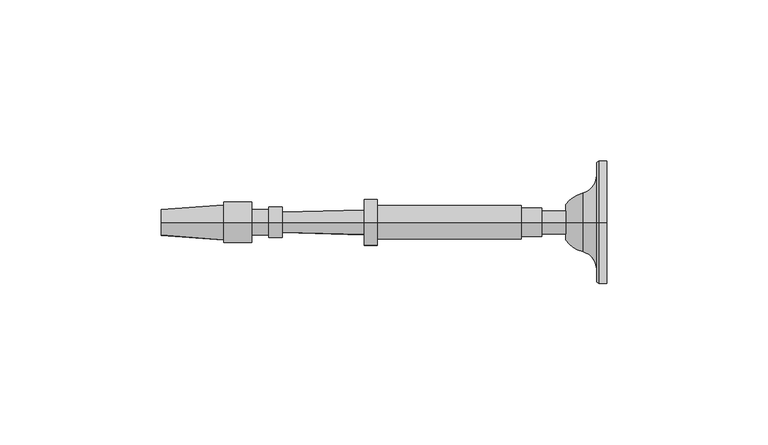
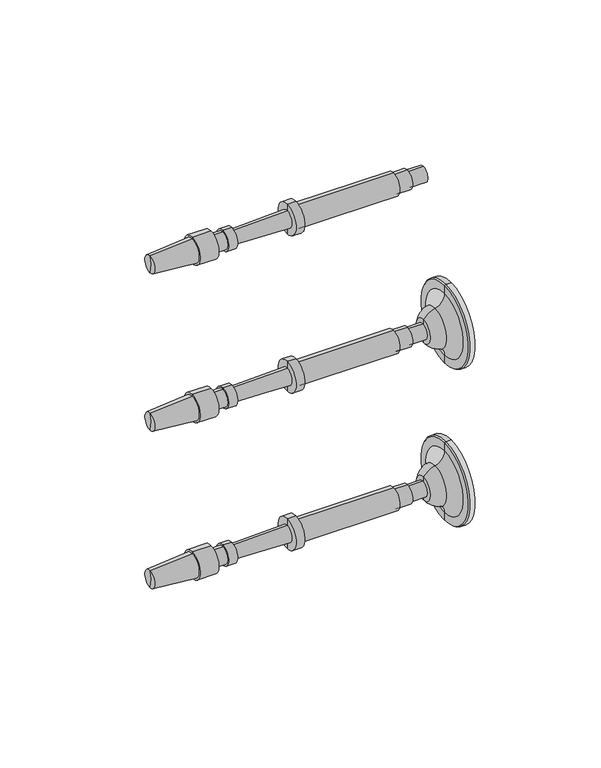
"""IFC4 building model written with IfcOpenShell, lengths in millimetres: railing geometry, RAILEASY CABLE RAILING CORNER TENSIONERS STAIR."""

from ifc_helpers import new_model, si_unit, point, frame, origin, place, context, project, spatial, polyline, circle_curve, ellipse_curve, trimmed, source, transform, mapped, element, save
from ifc_brep_helpers import plane_surface, cylinder_surface, revolved_surface, advanced_brep


def railing_0dcd67a9(model_context):
    return source(origin(), model_context, "Body", "AdvancedBrep", [
        advanced_brep(
        [(4032.408954, 20313.0866843, 33140.0282881), (4032.408954, 20313.0866843, 33147.1720381), (4032.408954, 20313.0866843, 33143.6001631), (3907.4650648, 20313.0866843, 33143.6001631), (3907.1694004, 20313.0866843, 33147.6246235), (3907.1694004, 20313.0866843, 33139.5757028), (3926.5127644, 20313.0866843, 33149.045719), (3926.5127644, 20313.0866843, 33138.1546072), (3926.5127644, 20313.0866843, 33149.9386877), (3926.5127644, 20313.0866843, 33137.2616385), (3935.1447956, 20313.0866843, 33149.9386877), (3935.1447956, 20313.0866843, 33137.2616385), (3935.1447956, 20313.0866843, 33147.5574377), (3935.1447956, 20313.0866843, 33139.6428885), (3940.5026081, 20313.0866843, 33147.5574377), (3940.5026081, 20313.0866843, 33139.6428885), (3940.5026081, 20313.0866843, 33148.3511877), (3940.5026081, 20313.0866843, 33138.8491385), (3944.5705769, 20313.0866843, 33148.3511877), (3944.5705769, 20313.0866843, 33138.8491385), (3944.614664, 20313.0866843, 33146.7643), (3944.614664, 20313.0866843, 33140.4360262), (3970.0048672, 20313.0866843, 33147.4696944), (3970.0048672, 20313.0866843, 33139.7306319), (3970.0048672, 20313.0866843, 33150.7439131), (3970.0048672, 20313.0866843, 33136.4564131), (3973.9736172, 20313.0866843, 33150.7439131), (3973.9736172, 20313.0866843, 33136.4564131), (3973.9736172, 20313.0866843, 33148.7595381), (3973.9736172, 20313.0866843, 33138.4407881), (4018.7212735, 20313.0866843, 33148.7595381), (4018.7212735, 20313.0866843, 33138.4407881), (4018.7212735, 20313.0866843, 33147.9657881), (4018.7212735, 20313.0866843, 33139.2345381), (4025.0712735, 20313.0866843, 33147.9657881), (4025.0712735, 20313.0866843, 33139.2345381), (4025.0712735, 20313.0866843, 33147.1720381), (4025.0712735, 20313.0866843, 33140.0282881)],
        [
            (0, 1, circle_curve(frame((4032.408954, 20313.0866843, 33143.6001631), z_axis=(1.0, 0.0, 0.0), x_axis=(0.0, 0.0, 1.0000000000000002)), 3.571875)),
            (1, 2),
            (2, 0),
            (1, 0, circle_curve(frame((4032.408954, 20313.0866843, 33143.6001631), z_axis=(1.0, 0.0, 0.0), x_axis=(0.0, 0.0, 1.0000000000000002)), 3.571875)),
            (3, 4),
            (4, 5, circle_curve(frame((3907.1694004, 20313.0866843, 33143.6001631), z_axis=(-1.0, 0.0, 0.0), x_axis=(0.0, 0.0, 1.0000000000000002)), 4.0244604)),
            (5, 3),
            (5, 4, circle_curve(frame((3907.1694004, 20313.0866843, 33143.6001631), z_axis=(-1.0, 0.0, 0.0), x_axis=(0.0, 0.0, 1.0000000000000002)), 4.0244604)),
            (4, 6),
            (6, 7, circle_curve(frame((3926.5127644, 20313.0866843, 33143.6001631), z_axis=(-1.0, 0.0, 0.0), x_axis=(0.0, 0.0, 1.0000000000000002)), 5.4455559)),
            (7, 5),
            (7, 6, circle_curve(frame((3926.5127644, 20313.0866843, 33143.6001631), z_axis=(-1.0, 0.0, 0.0), x_axis=(0.0, 0.0, 1.0000000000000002)), 5.4455559)),
            (6, 8),
            (8, 9, circle_curve(frame((3926.5127644, 20313.0866843, 33143.6001631), z_axis=(-1.0, 0.0, 0.0), x_axis=(0.0, 0.0, 1.0000000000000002)), 6.3385246)),
            (9, 7),
            (9, 8, circle_curve(frame((3926.5127644, 20313.0866843, 33143.6001631), z_axis=(-1.0, 0.0, 0.0), x_axis=(0.0, 0.0, 1.0000000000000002)), 6.3385246)),
            (8, 10),
            (10, 11, circle_curve(frame((3935.1447956, 20313.0866843, 33143.6001631), z_axis=(-1.0, 0.0, 0.0), x_axis=(0.0, 0.0, 1.0000000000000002)), 6.3385246)),
            (11, 9),
            (11, 10, circle_curve(frame((3935.1447956, 20313.0866843, 33143.6001631), z_axis=(-1.0, 0.0, 0.0), x_axis=(0.0, 0.0, 1.0000000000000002)), 6.3385246)),
            (10, 12),
            (12, 13, circle_curve(frame((3935.1447956, 20313.0866843, 33143.6001631), z_axis=(-1.0, 0.0, 0.0), x_axis=(0.0, 0.0, 1.0000000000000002)), 3.9572746)),
            (13, 11),
            (13, 12, circle_curve(frame((3935.1447956, 20313.0866843, 33143.6001631), z_axis=(-1.0, 0.0, 0.0), x_axis=(0.0, 0.0, 1.0000000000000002)), 3.9572746)),
            (12, 14),
            (14, 15, circle_curve(frame((3940.5026081, 20313.0866843, 33143.6001631), z_axis=(-1.0, 0.0, 0.0), x_axis=(0.0, 0.0, 1.0000000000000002)), 3.9572746)),
            (15, 13),
            (15, 14, circle_curve(frame((3940.5026081, 20313.0866843, 33143.6001631), z_axis=(-1.0, 0.0, 0.0), x_axis=(0.0, 0.0, 1.0000000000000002)), 3.9572746)),
            (14, 16),
            (16, 17, circle_curve(frame((3940.5026081, 20313.0866843, 33143.6001631), z_axis=(-1.0, 0.0, 0.0), x_axis=(0.0, 0.0, 1.0000000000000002)), 4.7510246)),
            (17, 15),
            (17, 16, circle_curve(frame((3940.5026081, 20313.0866843, 33143.6001631), z_axis=(-1.0, 0.0, 0.0), x_axis=(0.0, 0.0, 1.0000000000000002)), 4.7510246)),
            (16, 18),
            (18, 19, circle_curve(frame((3944.5705769, 20313.0866843, 33143.6001631), z_axis=(-1.0, 0.0, 0.0), x_axis=(0.0, 0.0, 1.0000000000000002)), 4.7510246)),
            (19, 17),
            (19, 18, circle_curve(frame((3944.5705769, 20313.0866843, 33143.6001631), z_axis=(-1.0, 0.0, 0.0), x_axis=(0.0, 0.0, 1.0000000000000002)), 4.7510246)),
            (18, 20),
            (20, 21, circle_curve(frame((3944.614664, 20313.0866843, 33143.6001631), z_axis=(-1.0, 0.0, 0.0), x_axis=(0.0, 0.0, 1.0000000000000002)), 3.1641369)),
            (21, 19),
            (21, 20, circle_curve(frame((3944.614664, 20313.0866843, 33143.6001631), z_axis=(-1.0, 0.0, 0.0), x_axis=(0.0, 0.0, 1.0000000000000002)), 3.1641369)),
            (20, 22),
            (22, 23, circle_curve(frame((3970.0048672, 20313.0866843, 33143.6001631), z_axis=(-1.0, 0.0, 0.0), x_axis=(0.0, 0.0, 1.0000000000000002)), 3.8695313)),
            (23, 21),
            (23, 22, circle_curve(frame((3970.0048672, 20313.0866843, 33143.6001631), z_axis=(-1.0, 0.0, 0.0), x_axis=(0.0, 0.0, 1.0000000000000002)), 3.8695313)),
            (22, 24),
            (24, 25, circle_curve(frame((3970.0048672, 20313.0866843, 33143.6001631), z_axis=(-1.0, 0.0, 0.0), x_axis=(0.0, 0.0, 1.0000000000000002)), 7.14375)),
            (25, 23),
            (25, 24, circle_curve(frame((3970.0048672, 20313.0866843, 33143.6001631), z_axis=(-1.0, 0.0, 0.0), x_axis=(0.0, 0.0, 1.0000000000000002)), 7.14375)),
            (24, 26),
            (26, 27, circle_curve(frame((3973.9736172, 20313.0866843, 33143.6001631), z_axis=(-1.0, 0.0, 0.0), x_axis=(0.0, 0.0, 1.0000000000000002)), 7.14375)),
            (27, 25),
            (27, 26, circle_curve(frame((3973.9736172, 20313.0866843, 33143.6001631), z_axis=(-1.0, 0.0, 0.0), x_axis=(0.0, 0.0, 1.0000000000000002)), 7.14375)),
            (26, 28),
            (28, 29, circle_curve(frame((3973.9736172, 20313.0866843, 33143.6001631), z_axis=(-1.0, 0.0, 0.0), x_axis=(0.0, 0.0, 1.0000000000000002)), 5.159375)),
            (29, 27),
            (29, 28, circle_curve(frame((3973.9736172, 20313.0866843, 33143.6001631), z_axis=(-1.0, 0.0, 0.0), x_axis=(0.0, 0.0, 1.0000000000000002)), 5.159375)),
            (28, 30),
            (30, 31, circle_curve(frame((4018.7212735, 20313.0866843, 33143.6001631), z_axis=(-1.0, 0.0, 0.0), x_axis=(0.0, 0.0, 1.0000000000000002)), 5.159375)),
            (31, 29),
            (31, 30, circle_curve(frame((4018.7212735, 20313.0866843, 33143.6001631), z_axis=(-1.0, 0.0, 0.0), x_axis=(0.0, 0.0, 1.0000000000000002)), 5.159375)),
            (30, 32),
            (32, 33, circle_curve(frame((4018.7212735, 20313.0866843, 33143.6001631), z_axis=(-1.0, 0.0, 0.0), x_axis=(0.0, 0.0, 1.0000000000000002)), 4.365625)),
            (33, 31),
            (33, 32, circle_curve(frame((4018.7212735, 20313.0866843, 33143.6001631), z_axis=(-1.0, 0.0, 0.0), x_axis=(0.0, 0.0, 1.0000000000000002)), 4.365625)),
            (32, 34),
            (34, 35, circle_curve(frame((4025.0712735, 20313.0866843, 33143.6001631), z_axis=(-1.0, 0.0, 0.0), x_axis=(0.0, 0.0, 1.0000000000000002)), 4.365625)),
            (35, 33),
            (35, 34, circle_curve(frame((4025.0712735, 20313.0866843, 33143.6001631), z_axis=(-1.0, 0.0, 0.0), x_axis=(0.0, 0.0, 1.0000000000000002)), 4.365625)),
            (34, 36),
            (36, 37, circle_curve(frame((4025.0712735, 20313.0866843, 33143.6001631), z_axis=(-1.0, 0.0, 0.0), x_axis=(0.0, 0.0, 1.0000000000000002)), 3.571875)),
            (37, 35),
            (37, 36, circle_curve(frame((4025.0712735, 20313.0866843, 33143.6001631), z_axis=(-1.0, 0.0, 0.0), x_axis=(0.0, 0.0, 1.0000000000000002)), 3.571875)),
            (36, 1),
            (0, 37),
        ],
        [
            plane_surface(frame((4032.408954, 20313.0866843, 33143.6001631), z_axis=(1.0, 0.0, 0.0), x_axis=(0.0, 0.0, 1.0))),
            revolved_surface(polyline([(3907.1694004, 20313.0866843, 33147.6246235), (3907.4650648, 20313.0866843, 33143.6001631)]), (3907.4650648, 20313.0866843, 33143.6001631), (-1.0, 0.0, 0.0)),
            revolved_surface(polyline([(3926.5127644, 20313.0866843, 33149.045719), (3907.1694004, 20313.0866843, 33147.6246235)]), (3907.4650648, 20313.0866843, 33143.6001631), (-1.0, 0.0, 0.0)),
            plane_surface(frame((3926.5127644, 20313.0866843, 33143.6001631), z_axis=(-1.0, 0.0, 0.0), x_axis=(0.0, 0.0, 1.0))),
            cylinder_surface(frame((3907.4650648, 20313.0866843, 33143.6001631), z_axis=(-1.0, 0.0, 0.0), x_axis=(0.0, 0.0, 1.0000000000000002)), 6.3385246),
            plane_surface(frame((3935.1447956, 20313.0866843, 33143.6001631), z_axis=(1.0, 0.0, 0.0), x_axis=(0.0, 0.0, 1.0))),
            cylinder_surface(frame((3907.4650648, 20313.0866843, 33143.6001631), z_axis=(-1.0, 0.0, 0.0), x_axis=(0.0, 0.0, 1.0000000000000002)), 3.9572746),
            plane_surface(frame((3940.5026081, 20313.0866843, 33143.6001631), z_axis=(-1.0, 0.0, 0.0), x_axis=(0.0, 0.0, 1.0))),
            cylinder_surface(frame((3907.4650648, 20313.0866843, 33143.6001631), z_axis=(-1.0, 0.0, 0.0), x_axis=(0.0, 0.0, 1.0000000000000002)), 4.7510246),
            plane_surface(frame((3944.614664, 20313.0866843, 33143.6001631), z_axis=(1.0, 0.0, 0.0), x_axis=(0.0, 0.0, 1.0))),
            revolved_surface(polyline([(3970.0048672, 20313.0866843, 33147.4696944), (3944.614664, 20313.0866843, 33146.7643)]), (3907.4650648, 20313.0866843, 33143.6001631), (-1.0, 0.0, 0.0)),
            plane_surface(frame((3970.0048672, 20313.0866843, 33143.6001631), z_axis=(-1.0, 0.0, 0.0), x_axis=(0.0, 0.0, 1.0))),
            cylinder_surface(frame((3907.4650648, 20313.0866843, 33143.6001631), z_axis=(-1.0, 0.0, 0.0), x_axis=(0.0, 0.0, 1.0000000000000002)), 7.14375),
            plane_surface(frame((3973.9736172, 20313.0866843, 33143.6001631), z_axis=(1.0, 0.0, 0.0), x_axis=(0.0, 0.0, 1.0))),
            cylinder_surface(frame((3907.4650648, 20313.0866843, 33143.6001631), z_axis=(-1.0, 0.0, 0.0), x_axis=(0.0, 0.0, 1.0000000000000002)), 5.159375),
            plane_surface(frame((4018.7212735, 20313.0866843, 33143.6001631), z_axis=(1.0, 0.0, 0.0), x_axis=(0.0, 0.0, 1.0))),
            cylinder_surface(frame((3907.4650648, 20313.0866843, 33143.6001631), z_axis=(-1.0, 0.0, 0.0), x_axis=(0.0, 0.0, 1.0000000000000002)), 4.365625),
            plane_surface(frame((4025.0712735, 20313.0866843, 33143.6001631), z_axis=(1.0, 0.0, 0.0), x_axis=(0.0, 0.0, 1.0))),
            cylinder_surface(frame((3907.4650648, 20313.0866843, 33143.6001631), z_axis=(-1.0, 0.0, 0.0), x_axis=(0.0, 0.0, 1.0000000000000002)), 3.571875),
        ],
        [
            (0, [[1, 2, 3]]),
            (0, [[4, -3, -2]]),
            (1, [[5, 6, 7]]),
            (1, [[-7, 8, -5]]),
            (2, [[-6, 9, 10, 11]]),
            (2, [[-8, -11, 12, -9]]),
            (3, [[-10, 13, 14, 15]]),
            (3, [[-12, -15, 16, -13]]),
            (4, [[-14, 17, 18, 19]]),
            (4, [[-16, -19, 20, -17]]),
            (5, [[-18, 21, 22, 23]]),
            (5, [[-20, -23, 24, -21]]),
            (6, [[-22, 25, 26, 27]]),
            (6, [[-24, -27, 28, -25]]),
            (7, [[-26, 29, 30, 31]]),
            (7, [[-28, -31, 32, -29]]),
            (8, [[-30, 33, 34, 35]]),
            (8, [[-32, -35, 36, -33]]),
            (9, [[-34, 37, 38, 39]]),
            (9, [[-36, -39, 40, -37]]),
            (10, [[-38, 41, 42, 43]]),
            (10, [[-40, -43, 44, -41]]),
            (11, [[-42, 45, 46, 47]]),
            (11, [[-44, -47, 48, -45]]),
            (12, [[-46, 49, 50, 51]]),
            (12, [[-48, -51, 52, -49]]),
            (13, [[-50, 53, 54, 55]]),
            (13, [[-52, -55, 56, -53]]),
            (14, [[-54, 57, 58, 59]]),
            (14, [[-56, -59, 60, -57]]),
            (15, [[-58, 61, 62, 63]]),
            (15, [[-60, -63, 64, -61]]),
            (16, [[-62, 65, 66, 67]]),
            (16, [[-64, -67, 68, -65]]),
            (17, [[-66, 69, 70, 71]]),
            (17, [[-68, -71, 72, -69]]),
            (18, [[-70, 73, -1, 74]]),
            (18, [[-72, -74, -4, -73]]),
        ],
    ),
        advanced_brep(
        [(4045.1015906, 20313.0866843, 33067.4001631), (4045.1015906, 20313.0866843, 33048.3501631), (4045.1015906, 20313.0866843, 33086.4501631), (4032.408954, 20313.0866843, 33061.8769785), (4032.408954, 20313.0866843, 33067.4001631), (4032.408954, 20313.0866843, 33072.9233478), (4037.6850504, 20313.0866843, 33058.2720381), (4037.6850504, 20313.0866843, 33076.5282881), (4042.0506754, 20313.0866843, 33052.6458254), (4042.0506754, 20313.0866843, 33082.1545009), (4042.0506754, 20313.0866843, 33048.7762941), (4042.0506754, 20313.0866843, 33086.0240321), (4042.7203406, 20313.0866843, 33048.3501631), (4042.7203406, 20313.0866843, 33086.4501631)],
        [
            (0, 1),
            (1, 2, circle_curve(frame((4045.1015906, 20313.0866843, 33067.4001631), z_axis=(1.0, 0.0, 0.0), x_axis=(0.0, 0.0, 1.0)), 19.05)),
            (2, 0),
            (2, 1, circle_curve(frame((4045.1015906, 20313.0866843, 33067.4001631), z_axis=(1.0, 0.0, 0.0), x_axis=(0.0, 0.0, 1.0)), 19.05)),
            (3, 4),
            (4, 5),
            (5, 3, circle_curve(frame((4032.408954, 20313.0866843, 33067.4001631), z_axis=(-1.0, 0.0, 0.0), x_axis=(0.0, 0.0, 1.0)), 5.5231846)),
            (3, 5, circle_curve(frame((4032.408954, 20313.0866843, 33067.4001631), z_axis=(-1.0, 0.0, 0.0), x_axis=(0.0, 0.0, 1.0)), 5.5231846)),
            (6, 3, circle_curve(frame((4040.0094591, 20313.0866843, 33067.3374304), z_axis=(0.0, 1.0, 0.0), x_axis=(-1.0, 0.0, 0.0)), 9.3586438)),
            (5, 7, circle_curve(frame((4040.0094591, 20313.0866843, 33067.4628958), z_axis=(0.0, 1.0, 0.0), x_axis=(-1.0, 0.0, 0.0)), 9.3586438)),
            (7, 6, circle_curve(frame((4037.6850504, 20313.0866843, 33067.4001631), z_axis=(-1.0, 0.0, 0.0), x_axis=(0.0, 0.0, 1.0)), 9.128125)),
            (6, 7, circle_curve(frame((4037.6850504, 20313.0866843, 33067.4001631), z_axis=(-1.0, 0.0, 0.0), x_axis=(0.0, 0.0, 1.0)), 9.128125)),
            (8, 6, circle_curve(frame((4036.2424634, 20313.0866843, 33052.6458254), z_axis=(0.0, -1.0, 0.0), x_axis=(-1.0, 0.0, 0.0)), 5.8082121)),
            (7, 9, circle_curve(frame((4036.2424634, 20313.0866843, 33082.1545009), z_axis=(0.0, -1.0, 0.0), x_axis=(-1.0, 0.0, 0.0)), 5.8082121)),
            (9, 8, circle_curve(frame((4042.0506754, 20313.0866843, 33067.4001631), z_axis=(-1.0, 0.0, 0.0), x_axis=(0.0, 0.0, 1.0)), 14.7543378)),
            (8, 9, circle_curve(frame((4042.0506754, 20313.0866843, 33067.4001631), z_axis=(-1.0, 0.0, 0.0), x_axis=(0.0, 0.0, 1.0)), 14.7543378)),
            (10, 8),
            (9, 11),
            (11, 10, circle_curve(frame((4042.0506754, 20313.0866843, 33067.4001631), z_axis=(-1.0, 0.0, 0.0), x_axis=(0.0, 0.0, 1.0)), 18.623869)),
            (10, 11, circle_curve(frame((4042.0506754, 20313.0866843, 33067.4001631), z_axis=(-1.0, 0.0, 0.0), x_axis=(0.0, 0.0, 1.0)), 18.623869)),
            (12, 10),
            (11, 13),
            (13, 12, circle_curve(frame((4042.7203406, 20313.0866843, 33067.4001631), z_axis=(-1.0, 0.0, 0.0), x_axis=(0.0, 0.0, 1.0)), 19.05)),
            (12, 13, circle_curve(frame((4042.7203406, 20313.0866843, 33067.4001631), z_axis=(-1.0, 0.0, 0.0), x_axis=(0.0, 0.0, 1.0)), 19.05)),
            (1, 12),
            (13, 2),
        ],
        [
            plane_surface(frame((4045.1015906, 20313.0866843, 33067.4001631), z_axis=(1.0, 0.0, 0.0), x_axis=(0.0, 0.0, 1.0))),
            plane_surface(frame((4032.408954, 20313.0866843, 33067.4001631), z_axis=(-1.0, 0.0, 0.0), x_axis=(0.0, 0.0, 1.0))),
            revolved_surface(trimmed(ellipse_curve(frame((4040.0094591, 20313.0866843, 33067.4628958), z_axis=(0.0, 1.0, 0.0), x_axis=(-1.0, 0.0, 0.0)), 9.3586438, 9.3586438), [point((4032.408954, 20313.0866843, 33072.9233478))], [point((4037.6850504, 20313.0866843, 33076.5282881))], True, "CARTESIAN"), (4045.1015906, 20313.0866843, 33067.4001631), (1.0, 0.0, 0.0)),
            revolved_surface(trimmed(ellipse_curve(frame((4036.2424634, 20313.0866843, 33082.1545009), z_axis=(0.0, -1.0, 0.0), x_axis=(-1.0, 0.0, 0.0)), 5.8082121, 5.8082121), [point((4037.6850504, 20313.0866843, 33076.5282881))], [point((4042.0506754, 20313.0866843, 33082.1545009))], True, "CARTESIAN"), (4045.1015906, 20313.0866843, 33067.4001631), (1.0, 0.0, 0.0)),
            plane_surface(frame((4042.0506754, 20313.0866843, 33067.4001631), z_axis=(-1.0, 0.0, 0.0), x_axis=(0.0, 0.0, 1.0))),
            revolved_surface(polyline([(4042.0506754, 20313.0866843, 33086.0240321), (4042.7203406, 20313.0866843, 33086.4501631)]), (4045.1015906, 20313.0866843, 33067.4001631), (1.0, 0.0, 0.0)),
            cylinder_surface(frame((4045.1015906, 20313.0866843, 33067.4001631), z_axis=(1.0, 0.0, 0.0), x_axis=(0.0, 0.0, 1.0)), 19.05),
        ],
        [
            (0, [[1, 2, 3]]),
            (0, [[-3, 4, -1]]),
            (1, [[5, 6, 7]]),
            (1, [[-6, -5, 8]]),
            (2, [[9, -7, 10, 11]]),
            (2, [[-10, -8, -9, 12]]),
            (3, [[13, -11, 14, 15]]),
            (3, [[-14, -12, -13, 16]]),
            (4, [[17, -15, 18, 19]]),
            (4, [[-18, -16, -17, 20]]),
            (5, [[21, -19, 22, 23]]),
            (5, [[-22, -20, -21, 24]]),
            (6, [[25, -23, 26, -2]]),
            (6, [[-26, -24, -25, -4]]),
        ],
    ),
        advanced_brep(
        [(4032.408954, 20313.0866843, 33063.8282881), (4032.408954, 20313.0866843, 33070.9720381), (4032.408954, 20313.0866843, 33067.4001631), (3907.4650648, 20313.0866843, 33067.4001631), (3907.1694004, 20313.0866843, 33071.4246235), (3907.1694004, 20313.0866843, 33063.3757028), (3926.5127644, 20313.0866843, 33072.845719), (3926.5127644, 20313.0866843, 33061.9546072), (3926.5127644, 20313.0866843, 33073.7386877), (3926.5127644, 20313.0866843, 33061.0616385), (3935.1447956, 20313.0866843, 33073.7386877), (3935.1447956, 20313.0866843, 33061.0616385), (3935.1447956, 20313.0866843, 33071.3574377), (3935.1447956, 20313.0866843, 33063.4428885), (3940.5026081, 20313.0866843, 33071.3574377), (3940.5026081, 20313.0866843, 33063.4428885), (3940.5026081, 20313.0866843, 33072.1511877), (3940.5026081, 20313.0866843, 33062.6491385), (3944.5705769, 20313.0866843, 33072.1511877), (3944.5705769, 20313.0866843, 33062.6491385), (3944.614664, 20313.0866843, 33070.5643), (3944.614664, 20313.0866843, 33064.2360262), (3970.0048672, 20313.0866843, 33071.2696944), (3970.0048672, 20313.0866843, 33063.5306319), (3970.0048672, 20313.0866843, 33074.5439131), (3970.0048672, 20313.0866843, 33060.2564131), (3973.9736172, 20313.0866843, 33074.5439131), (3973.9736172, 20313.0866843, 33060.2564131), (3973.9736172, 20313.0866843, 33072.5595381), (3973.9736172, 20313.0866843, 33062.2407881), (4018.7212735, 20313.0866843, 33072.5595381), (4018.7212735, 20313.0866843, 33062.2407881), (4018.7212735, 20313.0866843, 33071.7657881), (4018.7212735, 20313.0866843, 33063.0345381), (4025.0712735, 20313.0866843, 33071.7657881), (4025.0712735, 20313.0866843, 33063.0345381), (4025.0712735, 20313.0866843, 33070.9720381), (4025.0712735, 20313.0866843, 33063.8282881)],
        [
            (0, 1, circle_curve(frame((4032.408954, 20313.0866843, 33067.4001631), z_axis=(1.0, 0.0, 0.0), x_axis=(0.0, 0.0, 1.0000000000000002)), 3.571875)),
            (1, 2),
            (2, 0),
            (1, 0, circle_curve(frame((4032.408954, 20313.0866843, 33067.4001631), z_axis=(1.0, 0.0, 0.0), x_axis=(0.0, 0.0, 1.0000000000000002)), 3.571875)),
            (3, 4),
            (4, 5, circle_curve(frame((3907.1694004, 20313.0866843, 33067.4001631), z_axis=(-1.0, 0.0, 0.0), x_axis=(0.0, 0.0, 1.0000000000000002)), 4.0244604)),
            (5, 3),
            (5, 4, circle_curve(frame((3907.1694004, 20313.0866843, 33067.4001631), z_axis=(-1.0, 0.0, 0.0), x_axis=(0.0, 0.0, 1.0000000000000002)), 4.0244604)),
            (4, 6),
            (6, 7, circle_curve(frame((3926.5127644, 20313.0866843, 33067.4001631), z_axis=(-1.0, 0.0, 0.0), x_axis=(0.0, 0.0, 1.0000000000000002)), 5.4455559)),
            (7, 5),
            (7, 6, circle_curve(frame((3926.5127644, 20313.0866843, 33067.4001631), z_axis=(-1.0, 0.0, 0.0), x_axis=(0.0, 0.0, 1.0000000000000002)), 5.4455559)),
            (6, 8),
            (8, 9, circle_curve(frame((3926.5127644, 20313.0866843, 33067.4001631), z_axis=(-1.0, 0.0, 0.0), x_axis=(0.0, 0.0, 1.0000000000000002)), 6.3385246)),
            (9, 7),
            (9, 8, circle_curve(frame((3926.5127644, 20313.0866843, 33067.4001631), z_axis=(-1.0, 0.0, 0.0), x_axis=(0.0, 0.0, 1.0000000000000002)), 6.3385246)),
            (8, 10),
            (10, 11, circle_curve(frame((3935.1447956, 20313.0866843, 33067.4001631), z_axis=(-1.0, 0.0, 0.0), x_axis=(0.0, 0.0, 1.0000000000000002)), 6.3385246)),
            (11, 9),
            (11, 10, circle_curve(frame((3935.1447956, 20313.0866843, 33067.4001631), z_axis=(-1.0, 0.0, 0.0), x_axis=(0.0, 0.0, 1.0000000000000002)), 6.3385246)),
            (10, 12),
            (12, 13, circle_curve(frame((3935.1447956, 20313.0866843, 33067.4001631), z_axis=(-1.0, 0.0, 0.0), x_axis=(0.0, 0.0, 1.0000000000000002)), 3.9572746)),
            (13, 11),
            (13, 12, circle_curve(frame((3935.1447956, 20313.0866843, 33067.4001631), z_axis=(-1.0, 0.0, 0.0), x_axis=(0.0, 0.0, 1.0000000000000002)), 3.9572746)),
            (12, 14),
            (14, 15, circle_curve(frame((3940.5026081, 20313.0866843, 33067.4001631), z_axis=(-1.0, 0.0, 0.0), x_axis=(0.0, 0.0, 1.0000000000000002)), 3.9572746)),
            (15, 13),
            (15, 14, circle_curve(frame((3940.5026081, 20313.0866843, 33067.4001631), z_axis=(-1.0, 0.0, 0.0), x_axis=(0.0, 0.0, 1.0000000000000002)), 3.9572746)),
            (14, 16),
            (16, 17, circle_curve(frame((3940.5026081, 20313.0866843, 33067.4001631), z_axis=(-1.0, 0.0, 0.0), x_axis=(0.0, 0.0, 1.0000000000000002)), 4.7510246)),
            (17, 15),
            (17, 16, circle_curve(frame((3940.5026081, 20313.0866843, 33067.4001631), z_axis=(-1.0, 0.0, 0.0), x_axis=(0.0, 0.0, 1.0000000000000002)), 4.7510246)),
            (16, 18),
            (18, 19, circle_curve(frame((3944.5705769, 20313.0866843, 33067.4001631), z_axis=(-1.0, 0.0, 0.0), x_axis=(0.0, 0.0, 1.0000000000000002)), 4.7510246)),
            (19, 17),
            (19, 18, circle_curve(frame((3944.5705769, 20313.0866843, 33067.4001631), z_axis=(-1.0, 0.0, 0.0), x_axis=(0.0, 0.0, 1.0000000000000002)), 4.7510246)),
            (18, 20),
            (20, 21, circle_curve(frame((3944.614664, 20313.0866843, 33067.4001631), z_axis=(-1.0, 0.0, 0.0), x_axis=(0.0, 0.0, 1.0000000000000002)), 3.1641369)),
            (21, 19),
            (21, 20, circle_curve(frame((3944.614664, 20313.0866843, 33067.4001631), z_axis=(-1.0, 0.0, 0.0), x_axis=(0.0, 0.0, 1.0000000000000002)), 3.1641369)),
            (20, 22),
            (22, 23, circle_curve(frame((3970.0048672, 20313.0866843, 33067.4001631), z_axis=(-1.0, 0.0, 0.0), x_axis=(0.0, 0.0, 1.0000000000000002)), 3.8695313)),
            (23, 21),
            (23, 22, circle_curve(frame((3970.0048672, 20313.0866843, 33067.4001631), z_axis=(-1.0, 0.0, 0.0), x_axis=(0.0, 0.0, 1.0000000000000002)), 3.8695313)),
            (22, 24),
            (24, 25, circle_curve(frame((3970.0048672, 20313.0866843, 33067.4001631), z_axis=(-1.0, 0.0, 0.0), x_axis=(0.0, 0.0, 1.0000000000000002)), 7.14375)),
            (25, 23),
            (25, 24, circle_curve(frame((3970.0048672, 20313.0866843, 33067.4001631), z_axis=(-1.0, 0.0, 0.0), x_axis=(0.0, 0.0, 1.0000000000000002)), 7.14375)),
            (24, 26),
            (26, 27, circle_curve(frame((3973.9736172, 20313.0866843, 33067.4001631), z_axis=(-1.0, 0.0, 0.0), x_axis=(0.0, 0.0, 1.0000000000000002)), 7.14375)),
            (27, 25),
            (27, 26, circle_curve(frame((3973.9736172, 20313.0866843, 33067.4001631), z_axis=(-1.0, 0.0, 0.0), x_axis=(0.0, 0.0, 1.0000000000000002)), 7.14375)),
            (26, 28),
            (28, 29, circle_curve(frame((3973.9736172, 20313.0866843, 33067.4001631), z_axis=(-1.0, 0.0, 0.0), x_axis=(0.0, 0.0, 1.0000000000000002)), 5.159375)),
            (29, 27),
            (29, 28, circle_curve(frame((3973.9736172, 20313.0866843, 33067.4001631), z_axis=(-1.0, 0.0, 0.0), x_axis=(0.0, 0.0, 1.0000000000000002)), 5.159375)),
            (28, 30),
            (30, 31, circle_curve(frame((4018.7212735, 20313.0866843, 33067.4001631), z_axis=(-1.0, 0.0, 0.0), x_axis=(0.0, 0.0, 1.0000000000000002)), 5.159375)),
            (31, 29),
            (31, 30, circle_curve(frame((4018.7212735, 20313.0866843, 33067.4001631), z_axis=(-1.0, 0.0, 0.0), x_axis=(0.0, 0.0, 1.0000000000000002)), 5.159375)),
            (30, 32),
            (32, 33, circle_curve(frame((4018.7212735, 20313.0866843, 33067.4001631), z_axis=(-1.0, 0.0, 0.0), x_axis=(0.0, 0.0, 1.0000000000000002)), 4.365625)),
            (33, 31),
            (33, 32, circle_curve(frame((4018.7212735, 20313.0866843, 33067.4001631), z_axis=(-1.0, 0.0, 0.0), x_axis=(0.0, 0.0, 1.0000000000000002)), 4.365625)),
            (32, 34),
            (34, 35, circle_curve(frame((4025.0712735, 20313.0866843, 33067.4001631), z_axis=(-1.0, 0.0, 0.0), x_axis=(0.0, 0.0, 1.0000000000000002)), 4.365625)),
            (35, 33),
            (35, 34, circle_curve(frame((4025.0712735, 20313.0866843, 33067.4001631), z_axis=(-1.0, 0.0, 0.0), x_axis=(0.0, 0.0, 1.0000000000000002)), 4.365625)),
            (34, 36),
            (36, 37, circle_curve(frame((4025.0712735, 20313.0866843, 33067.4001631), z_axis=(-1.0, 0.0, 0.0), x_axis=(0.0, 0.0, 1.0000000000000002)), 3.571875)),
            (37, 35),
            (37, 36, circle_curve(frame((4025.0712735, 20313.0866843, 33067.4001631), z_axis=(-1.0, 0.0, 0.0), x_axis=(0.0, 0.0, 1.0000000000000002)), 3.571875)),
            (36, 1),
            (0, 37),
        ],
        [
            plane_surface(frame((4032.408954, 20313.0866843, 33067.4001631), z_axis=(1.0, 0.0, 0.0), x_axis=(0.0, 0.0, 1.0))),
            revolved_surface(polyline([(3907.1694004, 20313.0866843, 33071.4246235), (3907.4650648, 20313.0866843, 33067.4001631)]), (3907.4650648, 20313.0866843, 33067.4001631), (-1.0, 0.0, 0.0)),
            revolved_surface(polyline([(3926.5127644, 20313.0866843, 33072.845719), (3907.1694004, 20313.0866843, 33071.4246235)]), (3907.4650648, 20313.0866843, 33067.4001631), (-1.0, 0.0, 0.0)),
            plane_surface(frame((3926.5127644, 20313.0866843, 33067.4001631), z_axis=(-1.0, 0.0, 0.0), x_axis=(0.0, 0.0, 1.0))),
            cylinder_surface(frame((3907.4650648, 20313.0866843, 33067.4001631), z_axis=(-1.0, 0.0, 0.0), x_axis=(0.0, 0.0, 1.0000000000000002)), 6.3385246),
            plane_surface(frame((3935.1447956, 20313.0866843, 33067.4001631), z_axis=(1.0, 0.0, 0.0), x_axis=(0.0, 0.0, 1.0))),
            cylinder_surface(frame((3907.4650648, 20313.0866843, 33067.4001631), z_axis=(-1.0, 0.0, 0.0), x_axis=(0.0, 0.0, 1.0000000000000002)), 3.9572746),
            plane_surface(frame((3940.5026081, 20313.0866843, 33067.4001631), z_axis=(-1.0, 0.0, 0.0), x_axis=(0.0, 0.0, 1.0))),
            cylinder_surface(frame((3907.4650648, 20313.0866843, 33067.4001631), z_axis=(-1.0, 0.0, 0.0), x_axis=(0.0, 0.0, 1.0000000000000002)), 4.7510246),
            plane_surface(frame((3944.614664, 20313.0866843, 33067.4001631), z_axis=(1.0, 0.0, 0.0), x_axis=(0.0, 0.0, 1.0))),
            revolved_surface(polyline([(3970.0048672, 20313.0866843, 33071.2696944), (3944.614664, 20313.0866843, 33070.5643)]), (3907.4650648, 20313.0866843, 33067.4001631), (-1.0, 0.0, 0.0)),
            plane_surface(frame((3970.0048672, 20313.0866843, 33067.4001631), z_axis=(-1.0, 0.0, 0.0), x_axis=(0.0, 0.0, 1.0))),
            cylinder_surface(frame((3907.4650648, 20313.0866843, 33067.4001631), z_axis=(-1.0, 0.0, 0.0), x_axis=(0.0, 0.0, 1.0000000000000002)), 7.14375),
            plane_surface(frame((3973.9736172, 20313.0866843, 33067.4001631), z_axis=(1.0, 0.0, 0.0), x_axis=(0.0, 0.0, 1.0))),
            cylinder_surface(frame((3907.4650648, 20313.0866843, 33067.4001631), z_axis=(-1.0, 0.0, 0.0), x_axis=(0.0, 0.0, 1.0000000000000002)), 5.159375),
            plane_surface(frame((4018.7212735, 20313.0866843, 33067.4001631), z_axis=(1.0, 0.0, 0.0), x_axis=(0.0, 0.0, 1.0))),
            cylinder_surface(frame((3907.4650648, 20313.0866843, 33067.4001631), z_axis=(-1.0, 0.0, 0.0), x_axis=(0.0, 0.0, 1.0000000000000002)), 4.365625),
            plane_surface(frame((4025.0712735, 20313.0866843, 33067.4001631), z_axis=(1.0, 0.0, 0.0), x_axis=(0.0, 0.0, 1.0))),
            cylinder_surface(frame((3907.4650648, 20313.0866843, 33067.4001631), z_axis=(-1.0, 0.0, 0.0), x_axis=(0.0, 0.0, 1.0000000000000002)), 3.571875),
        ],
        [
            (0, [[1, 2, 3]]),
            (0, [[4, -3, -2]]),
            (1, [[5, 6, 7]]),
            (1, [[-7, 8, -5]]),
            (2, [[-6, 9, 10, 11]]),
            (2, [[-8, -11, 12, -9]]),
            (3, [[-10, 13, 14, 15]]),
            (3, [[-12, -15, 16, -13]]),
            (4, [[-14, 17, 18, 19]]),
            (4, [[-16, -19, 20, -17]]),
            (5, [[-18, 21, 22, 23]]),
            (5, [[-20, -23, 24, -21]]),
            (6, [[-22, 25, 26, 27]]),
            (6, [[-24, -27, 28, -25]]),
            (7, [[-26, 29, 30, 31]]),
            (7, [[-28, -31, 32, -29]]),
            (8, [[-30, 33, 34, 35]]),
            (8, [[-32, -35, 36, -33]]),
            (9, [[-34, 37, 38, 39]]),
            (9, [[-36, -39, 40, -37]]),
            (10, [[-38, 41, 42, 43]]),
            (10, [[-40, -43, 44, -41]]),
            (11, [[-42, 45, 46, 47]]),
            (11, [[-44, -47, 48, -45]]),
            (12, [[-46, 49, 50, 51]]),
            (12, [[-48, -51, 52, -49]]),
            (13, [[-50, 53, 54, 55]]),
            (13, [[-52, -55, 56, -53]]),
            (14, [[-54, 57, 58, 59]]),
            (14, [[-56, -59, 60, -57]]),
            (15, [[-58, 61, 62, 63]]),
            (15, [[-60, -63, 64, -61]]),
            (16, [[-62, 65, 66, 67]]),
            (16, [[-64, -67, 68, -65]]),
            (17, [[-66, 69, 70, 71]]),
            (17, [[-68, -71, 72, -69]]),
            (18, [[-70, 73, -1, 74]]),
            (18, [[-72, -74, -4, -73]]),
        ],
    ),
        advanced_brep(
        [(4045.1015906, 20313.0866843, 32991.2001631), (4045.1015906, 20313.0866843, 32972.1501631), (4045.1015906, 20313.0866843, 33010.2501631), (4032.408954, 20313.0866843, 32985.6769785), (4032.408954, 20313.0866843, 32991.2001631), (4032.408954, 20313.0866843, 32996.7233478), (4037.6850504, 20313.0866843, 32982.0720381), (4037.6850504, 20313.0866843, 33000.3282881), (4042.0506754, 20313.0866843, 32976.4458254), (4042.0506754, 20313.0866843, 33005.9545009), (4042.0506754, 20313.0866843, 32972.5762941), (4042.0506754, 20313.0866843, 33009.8240321), (4042.7203406, 20313.0866843, 32972.1501631), (4042.7203406, 20313.0866843, 33010.2501631)],
        [
            (0, 1),
            (1, 2, circle_curve(frame((4045.1015906, 20313.0866843, 32991.2001631), z_axis=(1.0, 0.0, 0.0), x_axis=(0.0, 0.0, 1.0)), 19.05)),
            (2, 0),
            (2, 1, circle_curve(frame((4045.1015906, 20313.0866843, 32991.2001631), z_axis=(1.0, 0.0, 0.0), x_axis=(0.0, 0.0, 1.0)), 19.05)),
            (3, 4),
            (4, 5),
            (5, 3, circle_curve(frame((4032.408954, 20313.0866843, 32991.2001631), z_axis=(-1.0, 0.0, 0.0), x_axis=(0.0, 0.0, 1.0)), 5.5231846)),
            (3, 5, circle_curve(frame((4032.408954, 20313.0866843, 32991.2001631), z_axis=(-1.0, 0.0, 0.0), x_axis=(0.0, 0.0, 1.0)), 5.5231846)),
            (6, 3, circle_curve(frame((4040.0094591, 20313.0866843, 32991.1374304), z_axis=(0.0, 1.0, 0.0), x_axis=(-1.0, 0.0, 0.0)), 9.3586438)),
            (5, 7, circle_curve(frame((4040.0094591, 20313.0866843, 32991.2628958), z_axis=(0.0, 1.0, 0.0), x_axis=(-1.0, 0.0, 0.0)), 9.3586438)),
            (7, 6, circle_curve(frame((4037.6850504, 20313.0866843, 32991.2001631), z_axis=(-1.0, 0.0, 0.0), x_axis=(0.0, 0.0, 1.0)), 9.128125)),
            (6, 7, circle_curve(frame((4037.6850504, 20313.0866843, 32991.2001631), z_axis=(-1.0, 0.0, 0.0), x_axis=(0.0, 0.0, 1.0)), 9.128125)),
            (8, 6, circle_curve(frame((4036.2424634, 20313.0866843, 32976.4458254), z_axis=(0.0, -1.0, 0.0), x_axis=(-1.0, 0.0, 0.0)), 5.8082121)),
            (7, 9, circle_curve(frame((4036.2424634, 20313.0866843, 33005.9545009), z_axis=(0.0, -1.0, 0.0), x_axis=(-1.0, 0.0, 0.0)), 5.8082121)),
            (9, 8, circle_curve(frame((4042.0506754, 20313.0866843, 32991.2001631), z_axis=(-1.0, 0.0, 0.0), x_axis=(0.0, 0.0, 1.0)), 14.7543378)),
            (8, 9, circle_curve(frame((4042.0506754, 20313.0866843, 32991.2001631), z_axis=(-1.0, 0.0, 0.0), x_axis=(0.0, 0.0, 1.0)), 14.7543378)),
            (10, 8),
            (9, 11),
            (11, 10, circle_curve(frame((4042.0506754, 20313.0866843, 32991.2001631), z_axis=(-1.0, 0.0, 0.0), x_axis=(0.0, 0.0, 1.0)), 18.623869)),
            (10, 11, circle_curve(frame((4042.0506754, 20313.0866843, 32991.2001631), z_axis=(-1.0, 0.0, 0.0), x_axis=(0.0, 0.0, 1.0)), 18.623869)),
            (12, 10),
            (11, 13),
            (13, 12, circle_curve(frame((4042.7203406, 20313.0866843, 32991.2001631), z_axis=(-1.0, 0.0, 0.0), x_axis=(0.0, 0.0, 1.0)), 19.05)),
            (12, 13, circle_curve(frame((4042.7203406, 20313.0866843, 32991.2001631), z_axis=(-1.0, 0.0, 0.0), x_axis=(0.0, 0.0, 1.0)), 19.05)),
            (1, 12),
            (13, 2),
        ],
        [
            plane_surface(frame((4045.1015906, 20313.0866843, 32991.2001631), z_axis=(1.0, 0.0, 0.0), x_axis=(0.0, 0.0, 1.0))),
            plane_surface(frame((4032.408954, 20313.0866843, 32991.2001631), z_axis=(-1.0, 0.0, 0.0), x_axis=(0.0, 0.0, 1.0))),
            revolved_surface(trimmed(ellipse_curve(frame((4040.0094591, 20313.0866843, 32991.2628958), z_axis=(0.0, 1.0, 0.0), x_axis=(-1.0, 0.0, 0.0)), 9.3586438, 9.3586438), [point((4032.408954, 20313.0866843, 32996.7233478))], [point((4037.6850504, 20313.0866843, 33000.3282881))], True, "CARTESIAN"), (4045.1015906, 20313.0866843, 32991.2001631), (1.0, 0.0, 0.0)),
            revolved_surface(trimmed(ellipse_curve(frame((4036.2424634, 20313.0866843, 33005.9545009), z_axis=(0.0, -1.0, 0.0), x_axis=(-1.0, 0.0, 0.0)), 5.8082121, 5.8082121), [point((4037.6850504, 20313.0866843, 33000.3282881))], [point((4042.0506754, 20313.0866843, 33005.9545009))], True, "CARTESIAN"), (4045.1015906, 20313.0866843, 32991.2001631), (1.0, 0.0, 0.0)),
            plane_surface(frame((4042.0506754, 20313.0866843, 32991.2001631), z_axis=(-1.0, 0.0, 0.0), x_axis=(0.0, 0.0, 1.0))),
            revolved_surface(polyline([(4042.0506754, 20313.0866843, 33009.8240321), (4042.7203406, 20313.0866843, 33010.2501631)]), (4045.1015906, 20313.0866843, 32991.2001631), (1.0, 0.0, 0.0)),
            cylinder_surface(frame((4045.1015906, 20313.0866843, 32991.2001631), z_axis=(1.0, 0.0, 0.0), x_axis=(0.0, 0.0, 1.0)), 19.05),
        ],
        [
            (0, [[1, 2, 3]]),
            (0, [[-3, 4, -1]]),
            (1, [[5, 6, 7]]),
            (1, [[-6, -5, 8]]),
            (2, [[9, -7, 10, 11]]),
            (2, [[-10, -8, -9, 12]]),
            (3, [[13, -11, 14, 15]]),
            (3, [[-14, -12, -13, 16]]),
            (4, [[17, -15, 18, 19]]),
            (4, [[-18, -16, -17, 20]]),
            (5, [[21, -19, 22, 23]]),
            (5, [[-22, -20, -21, 24]]),
            (6, [[25, -23, 26, -2]]),
            (6, [[-26, -24, -25, -4]]),
        ],
    ),
        advanced_brep(
        [(4032.408954, 20313.0866843, 32987.6282881), (4032.408954, 20313.0866843, 32994.7720381), (4032.408954, 20313.0866843, 32991.2001631), (3907.4650648, 20313.0866843, 32991.2001631), (3907.1694004, 20313.0866843, 32995.2246235), (3907.1694004, 20313.0866843, 32987.1757028), (3926.5127644, 20313.0866843, 32996.645719), (3926.5127644, 20313.0866843, 32985.7546072), (3926.5127644, 20313.0866843, 32997.5386877), (3926.5127644, 20313.0866843, 32984.8616385), (3935.1447956, 20313.0866843, 32997.5386877), (3935.1447956, 20313.0866843, 32984.8616385), (3935.1447956, 20313.0866843, 32995.1574377), (3935.1447956, 20313.0866843, 32987.2428885), (3940.5026081, 20313.0866843, 32995.1574377), (3940.5026081, 20313.0866843, 32987.2428885), (3940.5026081, 20313.0866843, 32995.9511877), (3940.5026081, 20313.0866843, 32986.4491385), (3944.5705769, 20313.0866843, 32995.9511877), (3944.5705769, 20313.0866843, 32986.4491385), (3944.614664, 20313.0866843, 32994.3643), (3944.614664, 20313.0866843, 32988.0360262), (3970.0048672, 20313.0866843, 32995.0696944), (3970.0048672, 20313.0866843, 32987.3306319), (3970.0048672, 20313.0866843, 32998.3439131), (3970.0048672, 20313.0866843, 32984.0564131), (3973.9736172, 20313.0866843, 32998.3439131), (3973.9736172, 20313.0866843, 32984.0564131), (3973.9736172, 20313.0866843, 32996.3595381), (3973.9736172, 20313.0866843, 32986.0407881), (4018.7212735, 20313.0866843, 32996.3595381), (4018.7212735, 20313.0866843, 32986.0407881), (4018.7212735, 20313.0866843, 32995.5657881), (4018.7212735, 20313.0866843, 32986.8345381), (4025.0712735, 20313.0866843, 32995.5657881), (4025.0712735, 20313.0866843, 32986.8345381), (4025.0712735, 20313.0866843, 32994.7720381), (4025.0712735, 20313.0866843, 32987.6282881)],
        [
            (0, 1, circle_curve(frame((4032.408954, 20313.0866843, 32991.2001631), z_axis=(1.0, 0.0, 0.0), x_axis=(0.0, 0.0, 1.0000000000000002)), 3.571875)),
            (1, 2),
            (2, 0),
            (1, 0, circle_curve(frame((4032.408954, 20313.0866843, 32991.2001631), z_axis=(1.0, 0.0, 0.0), x_axis=(0.0, 0.0, 1.0000000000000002)), 3.571875)),
            (3, 4),
            (4, 5, circle_curve(frame((3907.1694004, 20313.0866843, 32991.2001631), z_axis=(-1.0, 0.0, 0.0), x_axis=(0.0, 0.0, 1.0000000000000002)), 4.0244604)),
            (5, 3),
            (5, 4, circle_curve(frame((3907.1694004, 20313.0866843, 32991.2001631), z_axis=(-1.0, 0.0, 0.0), x_axis=(0.0, 0.0, 1.0000000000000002)), 4.0244604)),
            (4, 6),
            (6, 7, circle_curve(frame((3926.5127644, 20313.0866843, 32991.2001631), z_axis=(-1.0, 0.0, 0.0), x_axis=(0.0, 0.0, 1.0000000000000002)), 5.4455559)),
            (7, 5),
            (7, 6, circle_curve(frame((3926.5127644, 20313.0866843, 32991.2001631), z_axis=(-1.0, 0.0, 0.0), x_axis=(0.0, 0.0, 1.0000000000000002)), 5.4455559)),
            (6, 8),
            (8, 9, circle_curve(frame((3926.5127644, 20313.0866843, 32991.2001631), z_axis=(-1.0, 0.0, 0.0), x_axis=(0.0, 0.0, 1.0000000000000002)), 6.3385246)),
            (9, 7),
            (9, 8, circle_curve(frame((3926.5127644, 20313.0866843, 32991.2001631), z_axis=(-1.0, 0.0, 0.0), x_axis=(0.0, 0.0, 1.0000000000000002)), 6.3385246)),
            (8, 10),
            (10, 11, circle_curve(frame((3935.1447956, 20313.0866843, 32991.2001631), z_axis=(-1.0, 0.0, 0.0), x_axis=(0.0, 0.0, 1.0000000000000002)), 6.3385246)),
            (11, 9),
            (11, 10, circle_curve(frame((3935.1447956, 20313.0866843, 32991.2001631), z_axis=(-1.0, 0.0, 0.0), x_axis=(0.0, 0.0, 1.0000000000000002)), 6.3385246)),
            (10, 12),
            (12, 13, circle_curve(frame((3935.1447956, 20313.0866843, 32991.2001631), z_axis=(-1.0, 0.0, 0.0), x_axis=(0.0, 0.0, 1.0000000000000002)), 3.9572746)),
            (13, 11),
            (13, 12, circle_curve(frame((3935.1447956, 20313.0866843, 32991.2001631), z_axis=(-1.0, 0.0, 0.0), x_axis=(0.0, 0.0, 1.0000000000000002)), 3.9572746)),
            (12, 14),
            (14, 15, circle_curve(frame((3940.5026081, 20313.0866843, 32991.2001631), z_axis=(-1.0, 0.0, 0.0), x_axis=(0.0, 0.0, 1.0000000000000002)), 3.9572746)),
            (15, 13),
            (15, 14, circle_curve(frame((3940.5026081, 20313.0866843, 32991.2001631), z_axis=(-1.0, 0.0, 0.0), x_axis=(0.0, 0.0, 1.0000000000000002)), 3.9572746)),
            (14, 16),
            (16, 17, circle_curve(frame((3940.5026081, 20313.0866843, 32991.2001631), z_axis=(-1.0, 0.0, 0.0), x_axis=(0.0, 0.0, 1.0000000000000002)), 4.7510246)),
            (17, 15),
            (17, 16, circle_curve(frame((3940.5026081, 20313.0866843, 32991.2001631), z_axis=(-1.0, 0.0, 0.0), x_axis=(0.0, 0.0, 1.0000000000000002)), 4.7510246)),
            (16, 18),
            (18, 19, circle_curve(frame((3944.5705769, 20313.0866843, 32991.2001631), z_axis=(-1.0, 0.0, 0.0), x_axis=(0.0, 0.0, 1.0000000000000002)), 4.7510246)),
            (19, 17),
            (19, 18, circle_curve(frame((3944.5705769, 20313.0866843, 32991.2001631), z_axis=(-1.0, 0.0, 0.0), x_axis=(0.0, 0.0, 1.0000000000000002)), 4.7510246)),
            (18, 20),
            (20, 21, circle_curve(frame((3944.614664, 20313.0866843, 32991.2001631), z_axis=(-1.0, 0.0, 0.0), x_axis=(0.0, 0.0, 1.0000000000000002)), 3.1641369)),
            (21, 19),
            (21, 20, circle_curve(frame((3944.614664, 20313.0866843, 32991.2001631), z_axis=(-1.0, 0.0, 0.0), x_axis=(0.0, 0.0, 1.0000000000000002)), 3.1641369)),
            (20, 22),
            (22, 23, circle_curve(frame((3970.0048672, 20313.0866843, 32991.2001631), z_axis=(-1.0, 0.0, 0.0), x_axis=(0.0, 0.0, 1.0000000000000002)), 3.8695313)),
            (23, 21),
            (23, 22, circle_curve(frame((3970.0048672, 20313.0866843, 32991.2001631), z_axis=(-1.0, 0.0, 0.0), x_axis=(0.0, 0.0, 1.0000000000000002)), 3.8695313)),
            (22, 24),
            (24, 25, circle_curve(frame((3970.0048672, 20313.0866843, 32991.2001631), z_axis=(-1.0, 0.0, 0.0), x_axis=(0.0, 0.0, 1.0000000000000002)), 7.14375)),
            (25, 23),
            (25, 24, circle_curve(frame((3970.0048672, 20313.0866843, 32991.2001631), z_axis=(-1.0, 0.0, 0.0), x_axis=(0.0, 0.0, 1.0000000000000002)), 7.14375)),
            (24, 26),
            (26, 27, circle_curve(frame((3973.9736172, 20313.0866843, 32991.2001631), z_axis=(-1.0, 0.0, 0.0), x_axis=(0.0, 0.0, 1.0000000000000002)), 7.14375)),
            (27, 25),
            (27, 26, circle_curve(frame((3973.9736172, 20313.0866843, 32991.2001631), z_axis=(-1.0, 0.0, 0.0), x_axis=(0.0, 0.0, 1.0000000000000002)), 7.14375)),
            (26, 28),
            (28, 29, circle_curve(frame((3973.9736172, 20313.0866843, 32991.2001631), z_axis=(-1.0, 0.0, 0.0), x_axis=(0.0, 0.0, 1.0000000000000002)), 5.159375)),
            (29, 27),
            (29, 28, circle_curve(frame((3973.9736172, 20313.0866843, 32991.2001631), z_axis=(-1.0, 0.0, 0.0), x_axis=(0.0, 0.0, 1.0000000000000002)), 5.159375)),
            (28, 30),
            (30, 31, circle_curve(frame((4018.7212735, 20313.0866843, 32991.2001631), z_axis=(-1.0, 0.0, 0.0), x_axis=(0.0, 0.0, 1.0000000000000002)), 5.159375)),
            (31, 29),
            (31, 30, circle_curve(frame((4018.7212735, 20313.0866843, 32991.2001631), z_axis=(-1.0, 0.0, 0.0), x_axis=(0.0, 0.0, 1.0000000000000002)), 5.159375)),
            (30, 32),
            (32, 33, circle_curve(frame((4018.7212735, 20313.0866843, 32991.2001631), z_axis=(-1.0, 0.0, 0.0), x_axis=(0.0, 0.0, 1.0000000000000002)), 4.365625)),
            (33, 31),
            (33, 32, circle_curve(frame((4018.7212735, 20313.0866843, 32991.2001631), z_axis=(-1.0, 0.0, 0.0), x_axis=(0.0, 0.0, 1.0000000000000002)), 4.365625)),
            (32, 34),
            (34, 35, circle_curve(frame((4025.0712735, 20313.0866843, 32991.2001631), z_axis=(-1.0, 0.0, 0.0), x_axis=(0.0, 0.0, 1.0000000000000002)), 4.365625)),
            (35, 33),
            (35, 34, circle_curve(frame((4025.0712735, 20313.0866843, 32991.2001631), z_axis=(-1.0, 0.0, 0.0), x_axis=(0.0, 0.0, 1.0000000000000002)), 4.365625)),
            (34, 36),
            (36, 37, circle_curve(frame((4025.0712735, 20313.0866843, 32991.2001631), z_axis=(-1.0, 0.0, 0.0), x_axis=(0.0, 0.0, 1.0000000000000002)), 3.571875)),
            (37, 35),
            (37, 36, circle_curve(frame((4025.0712735, 20313.0866843, 32991.2001631), z_axis=(-1.0, 0.0, 0.0), x_axis=(0.0, 0.0, 1.0000000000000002)), 3.571875)),
            (36, 1),
            (0, 37),
        ],
        [
            plane_surface(frame((4032.408954, 20313.0866843, 32991.2001631), z_axis=(1.0, 0.0, 0.0), x_axis=(0.0, 0.0, 1.0))),
            revolved_surface(polyline([(3907.1694004, 20313.0866843, 32995.2246235), (3907.4650648, 20313.0866843, 32991.2001631)]), (3907.4650648, 20313.0866843, 32991.2001631), (-1.0, 0.0, 0.0)),
            revolved_surface(polyline([(3926.5127644, 20313.0866843, 32996.645719), (3907.1694004, 20313.0866843, 32995.2246235)]), (3907.4650648, 20313.0866843, 32991.2001631), (-1.0, 0.0, 0.0)),
            plane_surface(frame((3926.5127644, 20313.0866843, 32991.2001631), z_axis=(-1.0, 0.0, 0.0), x_axis=(0.0, 0.0, 1.0))),
            cylinder_surface(frame((3907.4650648, 20313.0866843, 32991.2001631), z_axis=(-1.0, 0.0, 0.0), x_axis=(0.0, 0.0, 1.0000000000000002)), 6.3385246),
            plane_surface(frame((3935.1447956, 20313.0866843, 32991.2001631), z_axis=(1.0, 0.0, 0.0), x_axis=(0.0, 0.0, 1.0))),
            cylinder_surface(frame((3907.4650648, 20313.0866843, 32991.2001631), z_axis=(-1.0, 0.0, 0.0), x_axis=(0.0, 0.0, 1.0000000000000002)), 3.9572746),
            plane_surface(frame((3940.5026081, 20313.0866843, 32991.2001631), z_axis=(-1.0, 0.0, 0.0), x_axis=(0.0, 0.0, 1.0))),
            cylinder_surface(frame((3907.4650648, 20313.0866843, 32991.2001631), z_axis=(-1.0, 0.0, 0.0), x_axis=(0.0, 0.0, 1.0000000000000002)), 4.7510246),
            plane_surface(frame((3944.614664, 20313.0866843, 32991.2001631), z_axis=(1.0, 0.0, 0.0), x_axis=(0.0, 0.0, 1.0))),
            revolved_surface(polyline([(3970.0048672, 20313.0866843, 32995.0696944), (3944.614664, 20313.0866843, 32994.3643)]), (3907.4650648, 20313.0866843, 32991.2001631), (-1.0, 0.0, 0.0)),
            plane_surface(frame((3970.0048672, 20313.0866843, 32991.2001631), z_axis=(-1.0, 0.0, 0.0), x_axis=(0.0, 0.0, 1.0))),
            cylinder_surface(frame((3907.4650648, 20313.0866843, 32991.2001631), z_axis=(-1.0, 0.0, 0.0), x_axis=(0.0, 0.0, 1.0000000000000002)), 7.14375),
            plane_surface(frame((3973.9736172, 20313.0866843, 32991.2001631), z_axis=(1.0, 0.0, 0.0), x_axis=(0.0, 0.0, 1.0))),
            cylinder_surface(frame((3907.4650648, 20313.0866843, 32991.2001631), z_axis=(-1.0, 0.0, 0.0), x_axis=(0.0, 0.0, 1.0000000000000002)), 5.159375),
            plane_surface(frame((4018.7212735, 20313.0866843, 32991.2001631), z_axis=(1.0, 0.0, 0.0), x_axis=(0.0, 0.0, 1.0))),
            cylinder_surface(frame((3907.4650648, 20313.0866843, 32991.2001631), z_axis=(-1.0, 0.0, 0.0), x_axis=(0.0, 0.0, 1.0000000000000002)), 4.365625),
            plane_surface(frame((4025.0712735, 20313.0866843, 32991.2001631), z_axis=(1.0, 0.0, 0.0), x_axis=(0.0, 0.0, 1.0))),
            cylinder_surface(frame((3907.4650648, 20313.0866843, 32991.2001631), z_axis=(-1.0, 0.0, 0.0), x_axis=(0.0, 0.0, 1.0000000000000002)), 3.571875),
        ],
        [
            (0, [[1, 2, 3]]),
            (0, [[4, -3, -2]]),
            (1, [[5, 6, 7]]),
            (1, [[-7, 8, -5]]),
            (2, [[-6, 9, 10, 11]]),
            (2, [[-8, -11, 12, -9]]),
            (3, [[-10, 13, 14, 15]]),
            (3, [[-12, -15, 16, -13]]),
            (4, [[-14, 17, 18, 19]]),
            (4, [[-16, -19, 20, -17]]),
            (5, [[-18, 21, 22, 23]]),
            (5, [[-20, -23, 24, -21]]),
            (6, [[-22, 25, 26, 27]]),
            (6, [[-24, -27, 28, -25]]),
            (7, [[-26, 29, 30, 31]]),
            (7, [[-28, -31, 32, -29]]),
            (8, [[-30, 33, 34, 35]]),
            (8, [[-32, -35, 36, -33]]),
            (9, [[-34, 37, 38, 39]]),
            (9, [[-36, -39, 40, -37]]),
            (10, [[-38, 41, 42, 43]]),
            (10, [[-40, -43, 44, -41]]),
            (11, [[-42, 45, 46, 47]]),
            (11, [[-44, -47, 48, -45]]),
            (12, [[-46, 49, 50, 51]]),
            (12, [[-48, -51, 52, -49]]),
            (13, [[-50, 53, 54, 55]]),
            (13, [[-52, -55, 56, -53]]),
            (14, [[-54, 57, 58, 59]]),
            (14, [[-56, -59, 60, -57]]),
            (15, [[-58, 61, 62, 63]]),
            (15, [[-60, -63, 64, -61]]),
            (16, [[-62, 65, 66, 67]]),
            (16, [[-64, -67, 68, -65]]),
            (17, [[-66, 69, 70, 71]]),
            (17, [[-68, -71, 72, -69]]),
            (18, [[-70, 73, -1, 74]]),
            (18, [[-72, -74, -4, -73]]),
        ],
    ),
    ])


if __name__ == "__main__":
    model = new_model("IFC4")
    model_context = context("Model", 3, world=origin())
    ifc_project = project(units=[si_unit("LENGTHUNIT", "METRE", prefix="MILLI")], contexts=[model_context])
    site = spatial("IfcSite", under=ifc_project)
    building = spatial("IfcBuilding", under=site)
    placement = place(None, origin())
    railing_shape = railing_0dcd67a9(model_context)
    element("IfcRailing", 1, ObjectType="RAILEASY CABLE RAILING CORNER TENSIONERS STAIR", at=placement, inside=building, context=model_context, shape_type="MappedRepresentation", body=[
        mapped(railing_shape, transform((0.0, 0.0, 0.0), x_axis=(1.0, 0.0, 0.0), y_axis=(0.0, 1.0, 0.0), z_axis=(0.0, 0.0, 1.0))),
    ])
    save(model, "model.ifc")
